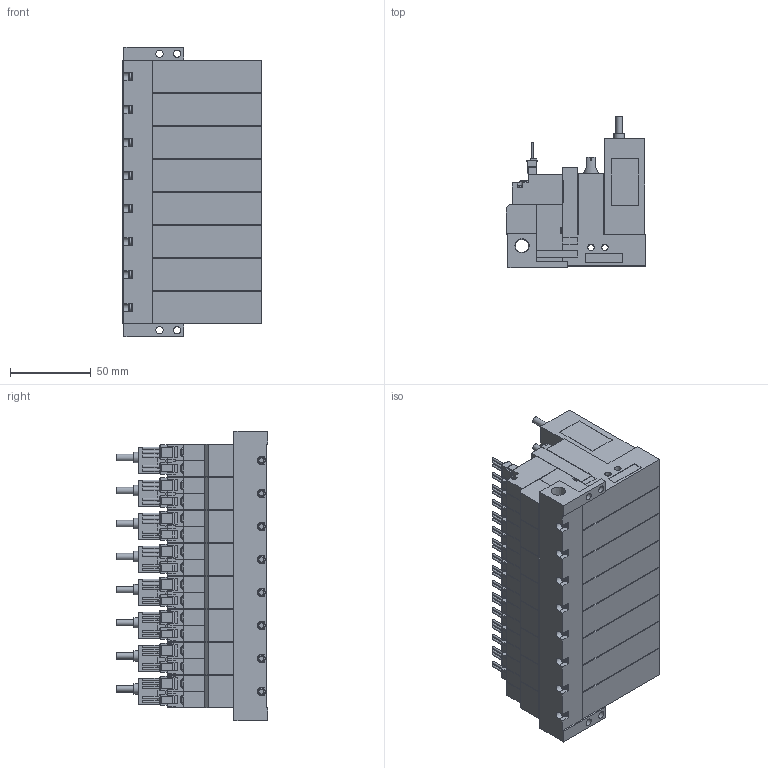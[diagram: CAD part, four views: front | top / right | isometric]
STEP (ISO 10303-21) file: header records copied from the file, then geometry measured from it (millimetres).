
FILE_DESCRIPTION(('STEP AP203'),'1');
FILE_NAME('VG_VGPL5WLR808.stp','2025-02-25T05:24:23',(' '),(' '),'Spatial InterOp 3D',' ',' ');
FILE_SCHEMA(('CONFIG_CONTROL_DESIGN'));
Length unit declared in the file: millimetre
Products named in the file (5): BMC22M※※※※VG_VGPL5WLR808; Solenoid valve W; Pressure sensor VGL; Unit L; Base MR80R
Assembly tree (25 placements, depth 2):
  BMC22M※※※※VG_VGPL5WLR808
    Solenoid valve W  x8
    Pressure sensor VGL  x8
    Unit L  x8
    Base MR80R
Bounding box: 86.6 x 94 x 179.5 mm (x, y, z)
Volume: 800652.5 mm3; surface area: 215490.8 mm2
Topology: 25 solids, 25 shells, 2901 faces, 7755 edges, 5136 vertices
Faces by surface type: plane 2446, cylinder 373, cone 58, torus 24
Full cylindrical faces by diameter (mm): 1.4 x40, 2.5 x24, 3 x32, 3.5 x32, 3.6 x8, 4 x48, 4.134 x8, 4.5 x4, 5.2 x8, 6 x8, 6.5 x8, 6.6 x8, 8.279 x1
Entity records: 15157 total; most frequent: CARTESIAN_POINT 2938, DIRECTION 2435, ORIENTED_EDGE 2294, EDGE_CURVE 1147, LINE 887, VECTOR 887, VERTEX_POINT 817, AXIS2_PLACEMENT_3D 774
